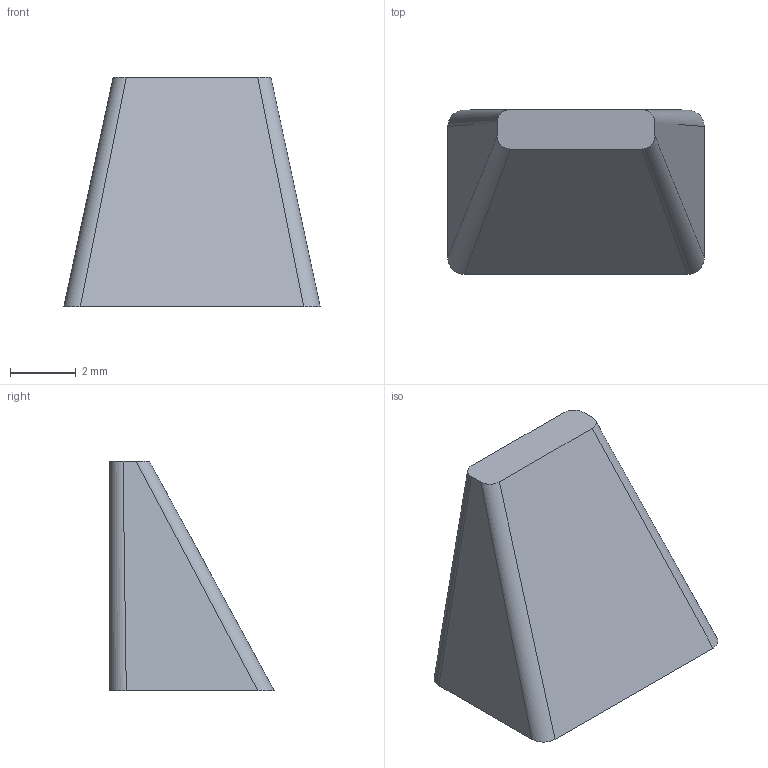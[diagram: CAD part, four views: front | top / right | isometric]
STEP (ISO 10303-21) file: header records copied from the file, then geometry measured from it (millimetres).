
FILE_DESCRIPTION(('Open CASCADE Model'),'2;1');
FILE_NAME('Open CASCADE Shape Model','2026-09-15T13:40:31',('Author'),( 'Open CASCADE'),'Open CASCADE STEP processor 7.7','Open CASCADE 7.7' ,'Unknown');
FILE_SCHEMA(('AUTOMOTIVE_DESIGN { 1 0 10303 214 1 1 1 1 }'));
Length unit declared in the file: millimetre
Products named in the file (1): COMPOUND
Bounding box: 7.8 x 5 x 6.99 mm (x, y, z)
Volume: 141.9 mm3; surface area: 177.6 mm2
Topology: 1 solids, 1 shells, 10 faces, 24 edges, 16 vertices
Faces by surface type: bspline 8, plane 2
Entity records: 654 total; most frequent: CARTESIAN_POINT 183, DIRECTION 74, ORIENTED_EDGE 48, PCURVE 48, DEFINITIONAL_REPRESENTATION 48, LINE 44, VECTOR 44, EDGE_CURVE 24
